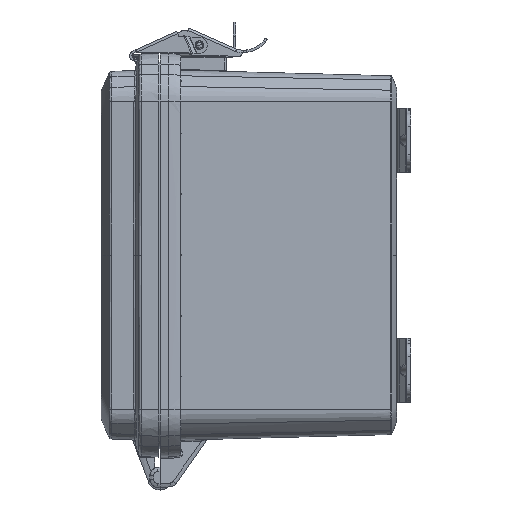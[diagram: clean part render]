
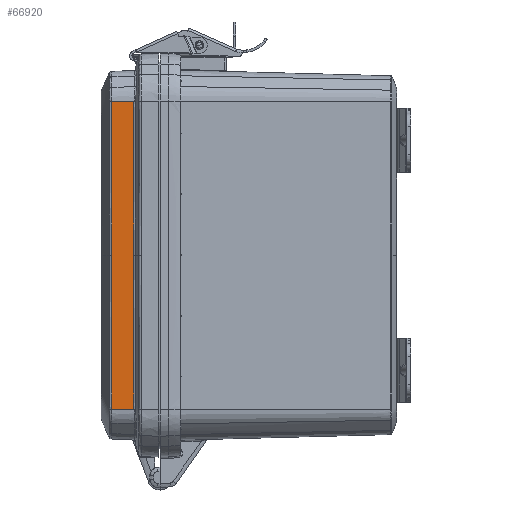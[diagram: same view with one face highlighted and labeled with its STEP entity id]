
A CAD part, left-side view. The second image highlights one B-rep face of the part: STEP entity #66920.
In plain terms, the highlighted planar face has unit normal (-0.999, 0.035, 0).
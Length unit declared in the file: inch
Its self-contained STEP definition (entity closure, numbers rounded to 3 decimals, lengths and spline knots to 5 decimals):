
#3572 = ORIENTED_EDGE ( 'NONE', *, *, #179715, .T. ) ;
#5751 = CARTESIAN_POINT ( 'NONE',  ( -3.5929, 0.91922, -2.69506 ) ) ;
#5983 = VERTEX_POINT ( 'NONE', #157739 ) ;
#6394 = CARTESIAN_POINT ( 'NONE',  ( -3.5929, 0.9192, 0. ) ) ;
#6635 = CARTESIAN_POINT ( 'NONE',  ( -3.5929, 0.91933, -2.00563 ) ) ;
#7948 = ORIENTED_EDGE ( 'NONE', *, *, #8837, .F. ) ;
#8218 = CARTESIAN_POINT ( 'NONE',  ( -3.59291, 0.91908, -3.00844 ) ) ;
#8837 = EDGE_CURVE ( 'NONE', #5983, #165175, #25227, .T. ) ;
#11393 = CARTESIAN_POINT ( 'NONE',  ( -3.625, 0., 3.00844 ) ) ;
#11876 = CARTESIAN_POINT ( 'NONE',  ( -3.60805, 0.48528, 2.38169 ) ) ;
#12771 = CARTESIAN_POINT ( 'NONE',  ( -3.60805, 0.4853, 2.75774 ) ) ;
#13789 = CARTESIAN_POINT ( 'NONE',  ( -3.60805, 0.48546, -2.83617 ) ) ;
#14704 = CARTESIAN_POINT ( 'NONE',  ( -3.60805, 0.4854, 0. ) ) ;
#17691 = ORIENTED_EDGE ( 'NONE', *, *, #172137, .T. ) ;
#19290 = CARTESIAN_POINT ( 'NONE',  ( -3.60805, 0.4854, 0. ) ) ;
#21419 = CARTESIAN_POINT ( 'NONE',  ( -3.5929, 0.91927, -1.75492 ) ) ;
#22063 = CARTESIAN_POINT ( 'NONE',  ( -3.5929, 0.91918, 1.00281 ) ) ;
#22983 = CARTESIAN_POINT ( 'NONE',  ( -3.5929, 0.91921, 0.50141 ) ) ;
#23903 = CARTESIAN_POINT ( 'NONE',  ( -3.5929, 0.91927, 2.38168 ) ) ;
#25227 = LINE ( 'NONE', #11393, #139412 ) ;
#25735 = CARTESIAN_POINT ( 'NONE',  ( -3.60807, 0.48478, 2.94577 ) ) ;
#26365 = DIRECTION ( 'NONE',  ( -0.035, -0.999, 0. ) ) ;
#27654 = CARTESIAN_POINT ( 'NONE',  ( -3.60807, 0.48478, -2.94585 ) ) ;
#28451 = CARTESIAN_POINT ( 'NONE',  ( -3.60804, 0.48558, 2.89876 ) ) ;
#28560 = CARTESIAN_POINT ( 'NONE',  ( -3.60805, 0.48546, -1.75498 ) ) ;
#29351 = ORIENTED_EDGE ( 'NONE', *, *, #155499, .T. ) ;
#32318 = B_SPLINE_CURVE_WITH_KNOTS ( 'NONE', 3,
 ( #180128, #141246, #125521, #112576, #82135, #11876, #98701, #95988, #12771, #155079, #68278, #70979, #28451, #25735, #99632, #142154 ),
 .UNSPECIFIED., .F., .F.,
 ( 4, 2, 2, 2, 2, 2, 2, 4 ),
 ( 0., 0.03821, 0.05731, 0.06686, 0.07164, 0.07283, 0.07403, 0.07641 ),
 .UNSPECIFIED. ) ;
#33236 = VERTEX_POINT ( 'NONE', #107791 ) ;
#34415 = CARTESIAN_POINT ( 'NONE',  ( -3.5929, 0.91934, -2.94577 ) ) ;
#38706 = CARTESIAN_POINT ( 'NONE',  ( -3.5929, 0.91923, 2.78908 ) ) ;
#39648 = B_SPLINE_CURVE_WITH_KNOTS ( 'NONE', 3,
 ( #75973, #63065, #120306, #21419, #6635, #61264, #135114, #5751, #134189, #147189, #34415, #173094, #146281, #90788 ),
 .UNSPECIFIED., .F., .F.,
 ( 4, 2, 2, 2, 1, 1, 2, 4 ),
 ( 0., 0.03821, 0.05731, 0.06686, 0.07164, 0.07403, 0.07522, 0.07641 ),
 .UNSPECIFIED. ) ;
#41544 = CARTESIAN_POINT ( 'NONE',  ( -3.60812, 0.48344, -2.97716 ) ) ;
#41668 = DIRECTION ( 'NONE',  ( -0.035, -0.999, 0. ) ) ;
#42447 = CARTESIAN_POINT ( 'NONE',  ( -3.60805, 0.48528, -2.38176 ) ) ;
#43362 = CARTESIAN_POINT ( 'NONE',  ( -3.60806, 0.48524, -2.69514 ) ) ;
#50739 = CARTESIAN_POINT ( 'NONE',  ( -3.5929, 0.91934, 2.94577 ) ) ;
#55431 = CARTESIAN_POINT ( 'NONE',  ( -3.60819, 0.48144, -3.00844 ) ) ;
#56329 = CARTESIAN_POINT ( 'NONE',  ( -3.60805, 0.48549, -2.85184 ) ) ;
#61264 = CARTESIAN_POINT ( 'NONE',  ( -3.5929, 0.91927, -2.38168 ) ) ;
#63065 = CARTESIAN_POINT ( 'NONE',  ( -3.5929, 0.91921, -0.50141 ) ) ;
#63645 = VERTEX_POINT ( 'NONE', #8218 ) ;
#64625 = CARTESIAN_POINT ( 'NONE',  ( -3.5929, 0.91937, 2.9771 ) ) ;
#66920 = ADVANCED_FACE ( 'NONE', ( #70303 ), #83269, .T. ) ;
#67805 = AXIS2_PLACEMENT_3D ( 'NONE', #152622, #155324, #41668 ) ;
#68278 = CARTESIAN_POINT ( 'NONE',  ( -3.60805, 0.48549, 2.85176 ) ) ;
#68694 = DIRECTION ( 'NONE',  ( -0.035, -0.999, 0. ) ) ;
#69744 = EDGE_CURVE ( 'NONE', #140562, #63645, #39648, .T. ) ;
#70180 = CARTESIAN_POINT ( 'NONE',  ( -3.60806, 0.48517, -2.50711 ) ) ;
#70303 = FACE_OUTER_BOUND ( 'NONE', #171692, .T. ) ;
#70979 = CARTESIAN_POINT ( 'NONE',  ( -3.60804, 0.48557, 2.8831 ) ) ;
#71988 = CARTESIAN_POINT ( 'NONE',  ( -3.60804, 0.48557, -2.88318 ) ) ;
#74038 = CARTESIAN_POINT ( 'NONE',  ( -3.5929, 0.9192, 0. ) ) ;
#75973 = CARTESIAN_POINT ( 'NONE',  ( -3.5929, 0.9192, 0. ) ) ;
#82135 = CARTESIAN_POINT ( 'NONE',  ( -3.60804, 0.48555, 2.00563 ) ) ;
#83269 = PLANE ( 'NONE',  #67805 ) ;
#83640 = LINE ( 'NONE', #170497, #176954 ) ;
#84931 = CARTESIAN_POINT ( 'NONE',  ( -3.60805, 0.48531, -1.00284 ) ) ;
#85471 = CARTESIAN_POINT ( 'NONE',  ( -3.60819, 0.48144, 3.00844 ) ) ;
#90788 = CARTESIAN_POINT ( 'NONE',  ( -3.59291, 0.91908, -3.00844 ) ) ;
#92332 = CARTESIAN_POINT ( 'NONE',  ( -3.5929, 0.91922, 2.69506 ) ) ;
#93751 = B_SPLINE_CURVE_WITH_KNOTS ( 'NONE', 3,
 ( #122792, #108024, #64625, #50739, #161694, #38706, #92332, #148726, #23903, #151468, #94149, #22063, #22983, #6394 ),
 .UNSPECIFIED., .F., .F.,
 ( 4, 2, 1, 1, 2, 2, 2, 4 ),
 ( 0., 0.00119, 0.00239, 0.00478, 0.00955, 0.0191, 0.03821, 0.07641 ),
 .UNSPECIFIED. ) ;
#94149 = CARTESIAN_POINT ( 'NONE',  ( -3.5929, 0.91927, 1.75492 ) ) ;
#95988 = CARTESIAN_POINT ( 'NONE',  ( -3.60806, 0.48524, 2.69507 ) ) ;
#98701 = CARTESIAN_POINT ( 'NONE',  ( -3.60806, 0.48517, 2.50704 ) ) ;
#98823 = CARTESIAN_POINT ( 'NONE',  ( -3.60804, 0.48555, -2.00569 ) ) ;
#99632 = CARTESIAN_POINT ( 'NONE',  ( -3.60812, 0.48344, 2.97711 ) ) ;
#107791 = CARTESIAN_POINT ( 'NONE',  ( -3.60819, 0.48144, -3.00844 ) ) ;
#107973 = B_SPLINE_CURVE_WITH_KNOTS ( 'NONE', 3,
 ( #55431, #41544, #27654, #140452, #71988, #56329, #13789, #112687, #43362, #70180, #42447, #98823, #28560, #84931, #141358, #14704 ),
 .UNSPECIFIED., .F., .F.,
 ( 4, 2, 2, 2, 2, 2, 2, 4 ),
 ( 0., 0.00239, 0.00358, 0.00478, 0.00955, 0.0191, 0.03821, 0.07641 ),
 .UNSPECIFIED. ) ;
#108024 = CARTESIAN_POINT ( 'NONE',  ( -3.59289, 0.91948, 2.99277 ) ) ;
#112576 = CARTESIAN_POINT ( 'NONE',  ( -3.60805, 0.48545, 1.75493 ) ) ;
#112687 = CARTESIAN_POINT ( 'NONE',  ( -3.60805, 0.4853, -2.75782 ) ) ;
#120306 = CARTESIAN_POINT ( 'NONE',  ( -3.5929, 0.91918, -1.00281 ) ) ;
#122792 = CARTESIAN_POINT ( 'NONE',  ( -3.59291, 0.91908, 3.00844 ) ) ;
#125521 = CARTESIAN_POINT ( 'NONE',  ( -3.60805, 0.48531, 1.00282 ) ) ;
#126417 = ORIENTED_EDGE ( 'NONE', *, *, #69744, .T. ) ;
#134189 = CARTESIAN_POINT ( 'NONE',  ( -3.5929, 0.91923, -2.78908 ) ) ;
#135114 = CARTESIAN_POINT ( 'NONE',  ( -3.5929, 0.91922, -2.50704 ) ) ;
#139412 = VECTOR ( 'NONE', #68694, 39.37008 ) ;
#140452 = CARTESIAN_POINT ( 'NONE',  ( -3.60804, 0.48557, -2.89885 ) ) ;
#140562 = VERTEX_POINT ( 'NONE', #74038 ) ;
#141246 = CARTESIAN_POINT ( 'NONE',  ( -3.60805, 0.48541, 0.50141 ) ) ;
#141358 = CARTESIAN_POINT ( 'NONE',  ( -3.60805, 0.48541, -0.50142 ) ) ;
#142154 = CARTESIAN_POINT ( 'NONE',  ( -3.60819, 0.48144, 3.00844 ) ) ;
#146281 = CARTESIAN_POINT ( 'NONE',  ( -3.59289, 0.91948, -2.99277 ) ) ;
#147189 = CARTESIAN_POINT ( 'NONE',  ( -3.5929, 0.9193, -2.89876 ) ) ;
#148726 = CARTESIAN_POINT ( 'NONE',  ( -3.5929, 0.91922, 2.50704 ) ) ;
#151468 = CARTESIAN_POINT ( 'NONE',  ( -3.5929, 0.91933, 2.00563 ) ) ;
#152622 = CARTESIAN_POINT ( 'NONE',  ( -3.625, 0., -3.00844 ) ) ;
#155079 = CARTESIAN_POINT ( 'NONE',  ( -3.60805, 0.48546, 2.83609 ) ) ;
#155324 = DIRECTION ( 'NONE',  ( -0.999, 0.035, 0. ) ) ;
#155499 = EDGE_CURVE ( 'NONE', #33236, #174337, #107973, .T. ) ;
#157739 = CARTESIAN_POINT ( 'NONE',  ( -3.59291, 0.91908, 3.00844 ) ) ;
#161694 = CARTESIAN_POINT ( 'NONE',  ( -3.5929, 0.9193, 2.89876 ) ) ;
#162944 = ORIENTED_EDGE ( 'NONE', *, *, #175603, .T. ) ;
#165175 = VERTEX_POINT ( 'NONE', #85471 ) ;
#170497 = CARTESIAN_POINT ( 'NONE',  ( -3.625, 0., -3.00844 ) ) ;
#171692 = EDGE_LOOP ( 'NONE', ( #17691, #126417, #162944, #29351, #3572, #7948 ) ) ;
#172137 = EDGE_CURVE ( 'NONE', #5983, #140562, #93751, .T. ) ;
#173094 = CARTESIAN_POINT ( 'NONE',  ( -3.5929, 0.91937, -2.9771 ) ) ;
#174337 = VERTEX_POINT ( 'NONE', #19290 ) ;
#175603 = EDGE_CURVE ( 'NONE', #63645, #33236, #83640, .T. ) ;
#176954 = VECTOR ( 'NONE', #26365, 39.37008 ) ;
#179715 = EDGE_CURVE ( 'NONE', #174337, #165175, #32318, .T. ) ;
#180128 = CARTESIAN_POINT ( 'NONE',  ( -3.60805, 0.4854, 0. ) ) ;
